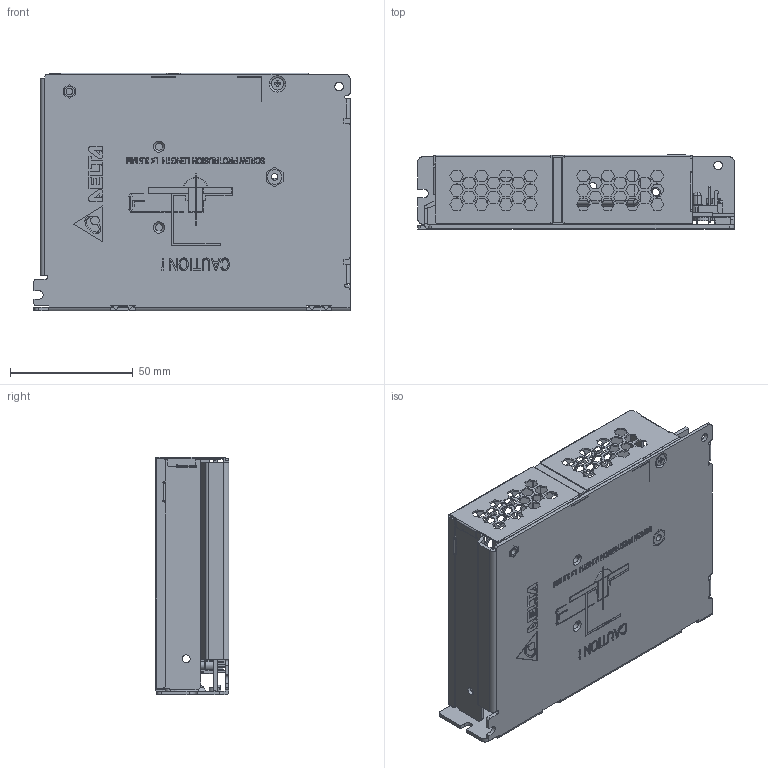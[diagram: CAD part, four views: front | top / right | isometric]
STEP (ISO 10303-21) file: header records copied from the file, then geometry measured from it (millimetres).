
FILE_DESCRIPTION((''),'2;1');
FILE_NAME('PMH-24V100WCMT_ASM','2018-04-10T',('warud'),(''),'PRO/ENGINEER BY PARAMETRIC TECHNOLOGY CORPORATION, 2010180','PRO/ENGINEER BY PARAMETRIC TECHNOLOGY CORPORATION, 2010180','');
FILE_SCHEMA(('CONFIG_CONTROL_DESIGN','SHAPE_APPEARANCE_LAYERS_GROUPS'));
Products named in the file (15): 330336890001_A_BODY_1; 330336890001_A_STUD6-32_1; 330336890001_A_STUDM3_1; 330336890001_ASM_1_ASM; 330336860000_1; PWB_MAINBOARD_1; 3076432931_JST_1; 3070953631_JST_TEMP_1; EE_VR131_1; EE_LED370_1; 312330170000_LED-HOLDER_1; ASSY_PWB-MAINBOARD_ASM_2_ASM; 3105469000_1; 3263670900_1; PMH-24V100WCMT_ASM
Assembly tree (14 placements, depth 3):
  PMH-24V100WCMT_ASM
    330336890001_ASM_1_ASM
      330336890001_A_BODY_1
      330336890001_A_STUD6-32_1
      330336890001_A_STUDM3_1
    330336860000_1
    ASSY_PWB-MAINBOARD_ASM_2_ASM
      PWB_MAINBOARD_1
      3076432931_JST_1
      3070953631_JST_TEMP_1
      EE_VR131_1
      EE_LED370_1
      312330170000_LED-HOLDER_1
    3105469000_1
    3263670900_1
Bounding box: 129 x 30.1 x 97 mm (x, y, z)
Volume: 53184.2 mm3; surface area: 88921.6 mm2
Topology: 12 solids, 12 shells, 4243 faces, 11726 edges, 7415 vertices
Faces by surface type: plane 3308, cylinder 365, extrusion 325, bspline 208, cone 35, torus 2
Entity records: 173130 total; most frequent: CARTESIAN_POINT 30024, ORIENTED_EDGE 23444, DIRECTION 19667, EDGE_CURVE 11722, PRESENTATION_STYLE_ASSIGNMENT 11591, STYLED_ITEM 11526, CURVE_STYLE 11430, VECTOR 10471
